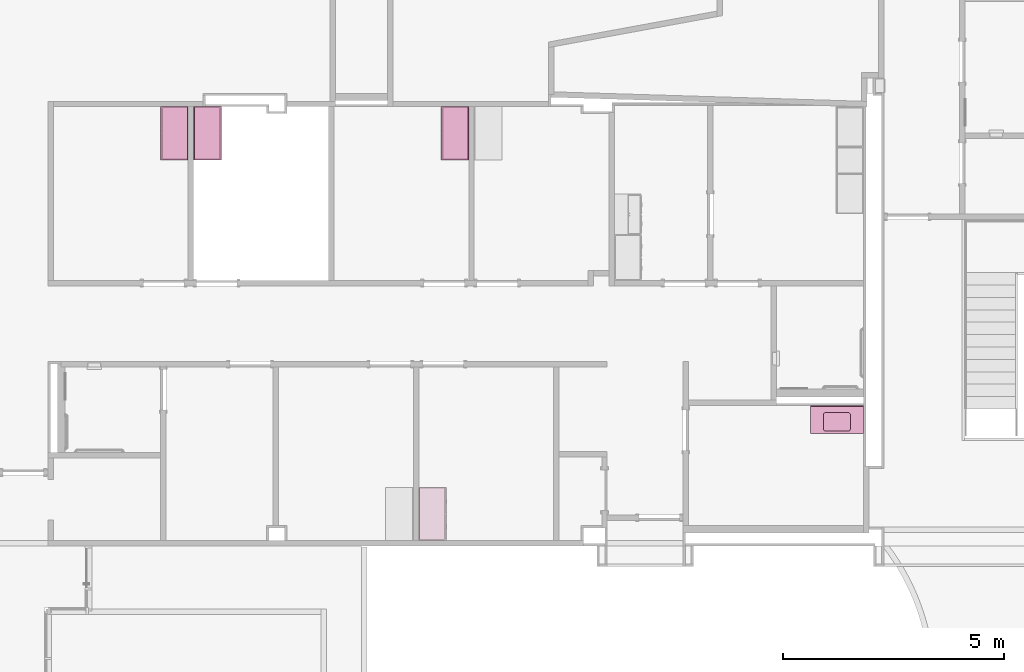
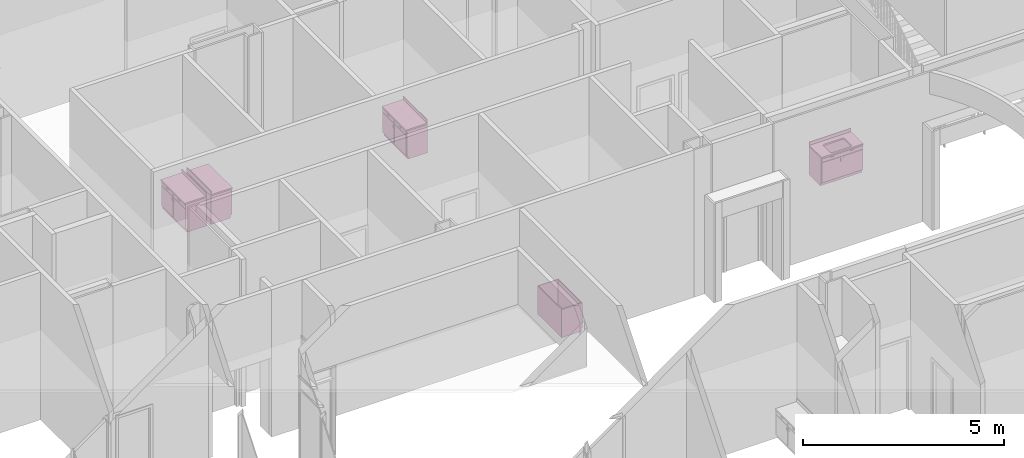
# One storey, part 78 of 82: 9 furnishings, 4 openings.
"""IFC2X3 building model written with IfcOpenShell, lengths in metres."""

from ifc_helpers import new_model, entity, si_unit, converted_unit, frame, frame_2d, origin, place, context, project, spatial, polyline, circle_curve, parameter, trimmed, segment, composite_curve, outline, extrude, face_set, surface_model, source, transform, mapped, type_object, type_shapes, element, save


model = new_model("IFC2X3")

# Units and contexts
model_context = context("Model", 3, precision=1e-09, world=origin())
plan_context = context("Plan", 3, precision=1e-09, world=origin())
ifc_project = project(units=[si_unit("LENGTHUNIT", "METRE"), si_unit("AREAUNIT", "SQUARE_METRE"), si_unit("VOLUMEUNIT", "CUBIC_METRE"), converted_unit("PLANEANGLEUNIT", "DEGREE", entity("IfcRatioMeasure", 0.01745329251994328), si_unit("PLANEANGLEUNIT", "RADIAN"), dimensions=[0, 0, 0, 0, 0, 0, 0]), si_unit("TIMEUNIT", "SECOND")], contexts=[model_context, plan_context])

# Site, building, storey, space
site_placement = place(None, origin())
site = spatial("IfcSite", under=ifc_project, at=site_placement, Name="Default", CompositionType="ELEMENT")
building_placement = place(site_placement, origin())
building = spatial("IfcBuilding", under=site, at=building_placement, CompositionType="ELEMENT")
storey_placement = place(building_placement, origin())
storey = spatial("IfcBuildingStorey", under=building, at=storey_placement, Name="First Floor", CompositionType="ELEMENT", Elevation=-3.531500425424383e-13)
space_1_placement = place(storey_placement, origin())
space_1 = spatial("IfcSpace", under=storey, at=space_1_placement, Name="1D02", CompositionType="ELEMENT", InteriorOrExteriorSpace="INTERNAL")

# Furnishing, opening
furniture_type_1 = type_object("IfcFurnitureType", Name="600mm Depth", AssemblyPlace="NOTDEFINED")
shared_shape_1 = source(origin(), model_context, "Body", "SweptSolid", [
    extrude(outline(polyline([(-0.0605333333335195, -0.2146833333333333), (0.08106666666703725, -0.2146833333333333), (0.08106666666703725, -0.1956333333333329), (-0.02053333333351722, -0.1956333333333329), (-0.02053333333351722, 0.4103166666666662), (-0.0605333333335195, 0.4103166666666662), (-0.0605333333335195, -0.2146833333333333)])), frame((-1.200462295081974, -0.2146833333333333, 0.920533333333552), z_axis=(1.0, 0.0, 0.0), x_axis=(0.0, 0.0, 1.0)), (0.0, 0.0, 1.0), 1.200000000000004),
])
type_shapes(furniture_type_1, [shared_shape_1])
furnishing_1_placement = place(space_1_placement, frame((-20.28953770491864, 37.94999999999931, 0.0)))
furnishing_1 = element("IfcFurnishingElement", 1, at=furnishing_1_placement, inside=space_1, type_object=furniture_type_1, Name="M_Counter Top w Sink Hole:600mm Depth:600mm Depth", ObjectType="600mm Depth", context=model_context, shape_type="MappedRepresentation", body=[
    mapped(shared_shape_1, transform((0.0, 0.0, 0.0), scale=1.0)),
])
opening_1_placement = place(space_1_placement, frame((-20.28953770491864, 37.94999999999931, 0.0)))
element("IfcOpeningElement", 2, at=opening_1_placement, cuts=furnishing_1, Name="M_Counter Top w Sink Hole:600mm Depth:600mm Depth:1", ObjectType="Opening", context=model_context, shape_type="SweptSolid", body=[
    extrude(outline(composite_curve([segment(polyline([(-0.2553999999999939, -0.2083292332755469), (0.2554000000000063, -0.2083292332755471)]), True, "CONTINUOUS"), segment(trimmed(circle_curve(frame_2d((0.2554000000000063, -0.1575292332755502), x_axis=(-1.0, 0.0)), 0.05079999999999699), [parameter(89.99999999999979)], [parameter(180.0000000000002)], True, "PARAMETER"), True, "CONTINUOUS"), segment(polyline([(0.3062000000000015, -0.1575292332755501), (0.3062000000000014, 0.1575292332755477)]), True, "CONTINUOUS"), segment(trimmed(circle_curve(frame_2d((0.255400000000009, 0.1575292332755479), x_axis=(-1.0, 0.0)), 0.0507999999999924), [parameter(179.9999999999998)], [parameter(269.9999999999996)], True, "PARAMETER"), True, "CONTINUOUS"), segment(polyline([(0.2554000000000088, 0.2083292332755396), (-0.2554000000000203, 0.2083292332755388)]), True, "CONTINUOUS"), segment(trimmed(circle_curve(frame_2d((-0.2554000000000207, 0.1575292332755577), x_axis=(-1.0, 0.0)), 0.05079999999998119), [parameter(269.9999999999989)], [parameter(359.9999999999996)], True, "PARAMETER"), True, "CONTINUOUS"), segment(polyline([(-0.3062000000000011, 0.1575292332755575), (-0.306200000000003, -0.1575292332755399)]), True, "CONTINUOUS"), segment(trimmed(circle_curve(frame_2d((-0.2553999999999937, -0.1575292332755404), x_axis=(-1.0, 0.0)), 0.05080000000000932), [parameter(359.9999999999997)], [parameter(90.00000000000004)], True, "PARAMETER"), True, "CONTINUOUS")], self_intersect=False)), frame((-0.6004622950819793, -0.3653589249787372, 0.8600000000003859), z_axis=(0.0, 0.0, 1.0), x_axis=(-1.0, 0.0, 0.0)), (0.0, 0.0, 1.0), 0.04000000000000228),
])

# Space
space_2_placement = place(storey_placement, origin())
space_2 = spatial("IfcSpace", under=storey, at=space_2_placement, Name="1D11", CompositionType="ELEMENT", InteriorOrExteriorSpace="INTERNAL")

# Furnishing, opening
furniture_type_2 = type_object("IfcFurnitureType", Name="600mm Depth", AssemblyPlace="NOTDEFINED")
type_shapes(furniture_type_2, [shared_shape_1])
furnishing_2_placement = place(space_2_placement, frame((-35.42600000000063, 44.70646229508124, 0.0), z_axis=(0.0, 0.0, 1.0), x_axis=(0.0, 1.0, 0.0)))
furnishing_2 = element("IfcFurnishingElement", 3, at=furnishing_2_placement, inside=space_2, type_object=furniture_type_2, Name="M_Counter Top w Sink Hole:600mm Depth:600mm Depth", ObjectType="600mm Depth", context=model_context, shape_type="MappedRepresentation", body=[
    mapped(shared_shape_1, transform((0.0, 0.0, 0.0), scale=1.0)),
])
opening_2_placement = place(space_2_placement, frame((-35.42600000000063, 44.70646229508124, 0.0), z_axis=(0.0, 0.0, 1.0), x_axis=(0.0, 1.0, 0.0)))
element("IfcOpeningElement", 4, at=opening_2_placement, cuts=furnishing_2, Name="M_Counter Top w Sink Hole:600mm Depth:600mm Depth:1", ObjectType="Opening", context=model_context, shape_type="SweptSolid", body=[
    extrude(outline(composite_curve([segment(polyline([(-0.255399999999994, -0.2083292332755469), (0.2554000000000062, -0.2083292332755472)]), True, "CONTINUOUS"), segment(trimmed(circle_curve(frame_2d((0.2554000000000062, -0.1575292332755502), x_axis=(-1.0, 0.0)), 0.05079999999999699), [parameter(89.99999999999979)], [parameter(180.0000000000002)], True, "PARAMETER"), True, "CONTINUOUS"), segment(polyline([(0.3062000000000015, -0.1575292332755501), (0.3062000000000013, 0.1575292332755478)]), True, "CONTINUOUS"), segment(trimmed(circle_curve(frame_2d((0.2554000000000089, 0.1575292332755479), x_axis=(-1.0, 0.0)), 0.0507999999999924), [parameter(179.9999999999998)], [parameter(269.9999999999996)], True, "PARAMETER"), True, "CONTINUOUS"), segment(polyline([(0.2554000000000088, 0.2083292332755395), (-0.2554000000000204, 0.2083292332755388)]), True, "CONTINUOUS"), segment(trimmed(circle_curve(frame_2d((-0.2554000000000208, 0.1575292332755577), x_axis=(-1.0, 0.0)), 0.05079999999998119), [parameter(269.9999999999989)], [parameter(359.9999999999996)], True, "PARAMETER"), True, "CONTINUOUS"), segment(polyline([(-0.3062000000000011, 0.1575292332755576), (-0.306200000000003, -0.1575292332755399)]), True, "CONTINUOUS"), segment(trimmed(circle_curve(frame_2d((-0.2553999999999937, -0.1575292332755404), x_axis=(-1.0, 0.0)), 0.05080000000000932), [parameter(359.9999999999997)], [parameter(90.00000000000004)], True, "PARAMETER"), True, "CONTINUOUS")], self_intersect=False)), frame((-0.3653589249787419, 0.6004622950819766, 0.8600000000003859), z_axis=(0.0, 0.0, 1.0), x_axis=(0.0, 1.0, 0.0)), (0.0, 0.0, 1.0), 0.04000000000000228),
])

# Furnishing
furniture_type_3 = type_object("IfcFurnitureType", Name="1200mm", AssemblyPlace="NOTDEFINED")
shared_shape_2 = source(origin(), model_context, "Body", "SurfaceModel", [
    surface_model("IfcFaceBasedSurfaceModel", [(1.180949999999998, 0.04445000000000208, 0.86000000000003), (1.180949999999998, 0.04445000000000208, 0.09999999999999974), (0.01905000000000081, 0.04445000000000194, 0.09999999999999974), (0.01905000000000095, 0.04445000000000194, 0.86000000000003), (1.2, 0.02540000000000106, 0.8600000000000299), (0.0, 0.02540000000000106, 0.8600000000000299), (1.2, 0.02540000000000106, 0.09999999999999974), (0.0, 0.02540000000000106, 0.0999999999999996), (0.01905000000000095, 0.6063499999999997, 0.86000000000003), (0.01905000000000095, 0.6063499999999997, 0.09999999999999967), (0.01905000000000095, 0.06040000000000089, 0.09999999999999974), (0.0, 0.6254000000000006, 0.8600000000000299), (0.0, 0.6254000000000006, 0.0), (0.0, 0.06040000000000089, 0.0), (0.0, 0.06040000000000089, 0.09999999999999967), (1.180949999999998, 0.6063499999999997, 0.86000000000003), (1.180949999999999, 0.6063499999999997, 0.09999999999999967), (1.2, 0.6254000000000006, 0.8600000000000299), (1.2, 0.6254000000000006, 0.0), (1.180949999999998, 0.06040000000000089, 0.09999999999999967), (1.2, 0.06040000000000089, 0.09999999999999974), (1.2, 0.06040000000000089, 0.0), (0.3603250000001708, 0.0, 0.8155500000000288), (0.3603250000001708, 0.0, 0.8028500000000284), (0.258725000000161, 0.0, 0.8028500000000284), (0.258725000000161, 0.0, 0.8155500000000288), (0.9412750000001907, 0.0, 0.8155500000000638), (0.9412750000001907, 0.0, 0.8028500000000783), (0.8396750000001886, 0.0, 0.8028500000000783), (0.8396750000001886, 0.0, 0.8155500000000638), (0.5650750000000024, 0.0, 0.6822000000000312), (0.5650750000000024, 0.0, 0.5806000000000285), (0.5523750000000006, 0.0, 0.5806000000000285), (0.5523750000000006, 0.0, 0.6822000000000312), (0.6476249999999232, 0.0, 0.6822000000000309), (0.6476249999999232, 0.0, 0.5806000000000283), (0.6349249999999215, 0.0, 0.5806000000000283), (0.6349249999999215, 0.0, 0.6822000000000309), (0.3603250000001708, 0.01270000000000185, 0.8155500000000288), (0.3603250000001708, 0.01270000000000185, 0.8028500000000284), (0.2587250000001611, 0.01270000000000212, 0.8028500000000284), (0.2587250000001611, 0.01270000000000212, 0.8155500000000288), (0.9412750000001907, 0.01269999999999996, 0.8155500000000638), (0.9412750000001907, 0.01269999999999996, 0.8028500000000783), (0.8396750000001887, 0.01270000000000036, 0.8028500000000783), (0.8396750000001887, 0.01270000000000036, 0.8155500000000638), (0.5650750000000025, 0.01270000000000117, 0.6822000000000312), (0.5650750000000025, 0.01270000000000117, 0.5806000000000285), (0.5523750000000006, 0.01270000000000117, 0.5806000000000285), (0.5523750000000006, 0.01270000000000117, 0.6822000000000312), (0.6476249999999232, 0.0127000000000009, 0.6822000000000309), (0.6476249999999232, 0.0127000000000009, 0.5806000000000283), (0.6349249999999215, 0.0127000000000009, 0.5806000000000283), (0.6349249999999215, 0.0127000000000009, 0.6822000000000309), (0.5904749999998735, 0.01270000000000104, 0.8409500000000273), (0.5904749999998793, 0.01270000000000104, 0.7393500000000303), (0.01905000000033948, 0.0127000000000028, 0.7393500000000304), (0.01905000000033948, 0.0127000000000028, 0.8409500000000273), (1.180950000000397, 0.01269999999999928, 0.8409500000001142), (1.180950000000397, 0.01269999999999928, 0.7393500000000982), (0.6095249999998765, 0.01270000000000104, 0.7393500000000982), (0.6095249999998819, 0.01270000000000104, 0.8409500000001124), (0.5904749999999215, 0.01270000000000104, 0.7203000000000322), (0.5904749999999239, 0.01270000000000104, 0.1190499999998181), (0.01905000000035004, 0.0127000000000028, 0.1190499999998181), (0.01905000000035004, 0.0127000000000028, 0.7203000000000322), (1.180950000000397, 0.01269999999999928, 0.7203000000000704), (1.180950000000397, 0.01269999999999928, 0.1190499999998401), (0.6095249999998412, 0.01270000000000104, 0.1190499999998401), (0.6095249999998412, 0.01270000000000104, 0.7203000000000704), (0.5904749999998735, 0.02540000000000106, 0.8409500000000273), (0.5904749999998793, 0.02540000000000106, 0.7393500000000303), (0.01905000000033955, 0.02540000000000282, 0.7393500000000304), (0.01905000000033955, 0.02540000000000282, 0.8409500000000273), (1.180950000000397, 0.02539999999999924, 0.8409500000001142), (1.180950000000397, 0.02539999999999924, 0.7393500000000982), (0.6095249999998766, 0.025400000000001, 0.7393500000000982), (0.6095249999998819, 0.025400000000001, 0.8409500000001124), (0.5904749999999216, 0.02540000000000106, 0.7203000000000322), (0.5904749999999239, 0.02540000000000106, 0.1190499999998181), (0.01905000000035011, 0.02540000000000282, 0.1190499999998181), (0.01905000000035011, 0.02540000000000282, 0.7203000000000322), (1.180950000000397, 0.02539999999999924, 0.7203000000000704), (1.180950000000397, 0.02539999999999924, 0.1190499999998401), (0.6095249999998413, 0.025400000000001, 0.1190499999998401), (0.6095249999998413, 0.025400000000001, 0.7203000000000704), (1.180949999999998, 0.6063499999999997, 0.1190499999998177), (1.180949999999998, 0.04445000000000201, 0.1190499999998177), (0.01905000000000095, 0.04445000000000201, 0.1190499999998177), (0.01905000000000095, 0.6063499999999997, 0.1190499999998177), (1.180949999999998, 0.6063499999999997, 0.09999999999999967), (1.180949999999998, 0.04445000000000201, 0.09999999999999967), (0.01905000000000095, 0.04445000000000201, 0.09999999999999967)], [face_set([[[0, 1, 2, 3]], [[0, 4, 5, 3]], [[4, 6, 7, 5]], [[2, 1, 6, 7]], [[3, 8, 9, 10, 2]], [[5, 11, 8, 3]], [[7, 5, 11, 12, 13, 14]], [[2, 7, 14, 10]], [[8, 15, 16, 9]], [[11, 17, 15, 8]], [[12, 11, 17, 18]], [[1, 19, 16, 15, 0]], [[0, 15, 17, 4]], [[4, 6, 20, 21, 18, 17]], [[6, 1, 19, 20]], [[10, 9, 16, 19]], [[18, 21, 13, 12]], [[13, 14, 10, 19, 20, 21]]]), face_set([[[22, 23, 24, 25]], [[26, 27, 28, 29]], [[30, 31, 32, 33]], [[34, 35, 36, 37]], [[38, 39, 40, 41]], [[42, 43, 44, 45]], [[46, 47, 48, 49]], [[50, 51, 52, 53]], [[25, 41, 38, 22]], [[24, 40, 41, 25]], [[23, 24, 40, 39]], [[22, 23, 39, 38]], [[29, 45, 42, 26]], [[28, 44, 45, 29]], [[27, 28, 44, 43]], [[26, 27, 43, 42]], [[33, 49, 46, 30]], [[32, 48, 49, 33]], [[31, 32, 48, 47]], [[30, 31, 47, 46]], [[37, 53, 50, 34]], [[36, 52, 53, 37]], [[35, 36, 52, 51]], [[34, 35, 51, 50]]]), face_set([[[54, 55, 56, 57]], [[58, 59, 60, 61]], [[62, 63, 64, 65]], [[66, 67, 68, 69]], [[70, 71, 72, 73]], [[74, 75, 76, 77]], [[78, 79, 80, 81]], [[82, 83, 84, 85]], [[57, 73, 70, 54]], [[56, 57, 73, 72]], [[55, 56, 72, 71]], [[54, 55, 71, 70]], [[61, 77, 74, 58]], [[60, 76, 77, 61]], [[59, 60, 76, 75]], [[58, 59, 75, 74]], [[65, 81, 78, 62]], [[64, 65, 81, 80]], [[63, 64, 80, 79]], [[62, 63, 79, 78]], [[69, 85, 82, 66]], [[68, 84, 85, 69]], [[67, 68, 84, 83]], [[66, 67, 83, 82]]]), face_set([[[86, 87, 88, 89]], [[90, 91, 92, 9]], [[89, 86, 90, 9]], [[88, 89, 9, 92]], [[87, 91, 92, 88]], [[86, 87, 91, 90]]])]),
])
type_shapes(furniture_type_3, [shared_shape_2])
furnishing_3_placement = place(space_1_placement, frame((-21.49000000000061, 37.32484908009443, 0.0)))
element("IfcFurnishingElement", 5, at=furnishing_3_placement, inside=space_1, type_object=furniture_type_3, Name="M_Base Cabinet-Double Door & 2 Drawer:1200mm:1200mm", ObjectType="1200mm", context=model_context, shape_type="MappedRepresentation", body=[
    mapped(shared_shape_2, transform((0.0, 0.0, 0.0), scale=1.0)),
])

# Space
space_3_placement = place(storey_placement, origin())
space_3 = spatial("IfcSpace", under=storey, at=space_3_placement, Name="1D08", CompositionType="ELEMENT", InteriorOrExteriorSpace="INTERNAL")

# Furnishings
furnishing_4_placement = place(space_3_placement, frame((-29.71484908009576, 34.90354814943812, 0.0), z_axis=(0.0, 0.0, 1.0), x_axis=(0.0, 1.0, 0.0)))
element("IfcFurnishingElement", 6, at=furnishing_4_placement, inside=space_3, type_object=furniture_type_3, Name="M_Base Cabinet-Double Door & 2 Drawer:1200mm:1200mm", ObjectType="1200mm", context=model_context, shape_type="MappedRepresentation", body=[
    mapped(shared_shape_2, transform((0.0, 0.0, 0.0), scale=1.0)),
])
furnishing_5_placement = place(space_2_placement, frame((-34.80084908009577, 43.50599999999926, 0.0), z_axis=(0.0, 0.0, 1.0), x_axis=(0.0, 1.0, 0.0)))
element("IfcFurnishingElement", 7, at=furnishing_5_placement, inside=space_2, type_object=furniture_type_3, Name="M_Base Cabinet-Double Door & 2 Drawer:1200mm:1200mm", ObjectType="1200mm", context=model_context, shape_type="MappedRepresentation", body=[
    mapped(shared_shape_2, transform((0.0, 0.0, 0.0), scale=1.0)),
])

# Space
space_4_placement = place(storey_placement, origin())
space_4 = spatial("IfcSpace", under=storey, at=space_4_placement, Name="1D09", CompositionType="ELEMENT", InteriorOrExteriorSpace="INTERNAL")

# Furnishing, opening
furniture_type_4 = type_object("IfcFurnitureType", Name="600mm Depth", AssemblyPlace="NOTDEFINED")
shared_shape_3 = source(origin(), model_context, "Body", "SweptSolid", [
    extrude(outline(polyline([(-0.2146833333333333, -0.06053333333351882), (0.4103166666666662, -0.06053333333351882), (0.4103166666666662, -0.02053333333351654), (-0.1956333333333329, -0.02053333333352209), (-0.1956333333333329, 0.08106666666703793), (-0.2146833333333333, 0.08106666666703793), (-0.2146833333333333, -0.06053333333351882)])), frame((-1.200462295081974, 0.2146833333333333, 0.9205333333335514), z_axis=(1.0, 0.0, 0.0), x_axis=(0.0, 1.0, 0.0)), (0.0, 0.0, 1.0), 1.200000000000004),
])
type_shapes(furniture_type_4, [shared_shape_3])
furnishing_6_placement = place(space_4_placement, frame((-29.21000000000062, 44.70646229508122, 0.0), z_axis=(0.0, 0.0, 1.0), x_axis=(0.0, 1.0, 0.0)))
furnishing_6 = element("IfcFurnishingElement", 8, at=furnishing_6_placement, inside=space_4, type_object=furniture_type_4, Name="M_Counter Top w Sink Hole:600mm Depth:600mm Depth", ObjectType="600mm Depth", context=model_context, shape_type="MappedRepresentation", body=[
    mapped(shared_shape_3, transform((0.0, 0.0, 0.0), scale=1.0)),
])
opening_3_placement = place(space_4_placement, frame((-29.21000000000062, 44.70646229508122, 0.0), z_axis=(0.0, 0.0, 1.0), x_axis=(0.0, 1.0, 0.0)))
element("IfcOpeningElement", 9, at=opening_3_placement, cuts=furnishing_6, Name="M_Counter Top w Sink Hole:600mm Depth:600mm Depth:1", ObjectType="Opening", context=model_context, shape_type="SweptSolid", body=[
    extrude(outline(composite_curve([segment(trimmed(circle_curve(frame_2d((-0.2554000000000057, 0.157529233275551), x_axis=(1.0, 0.0)), 0.05079999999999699), [parameter(90.00000000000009)], [parameter(180.0000000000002)], True, "PARAMETER"), True, "CONTINUOUS"), segment(polyline([(-0.306200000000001, 0.157529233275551), (-0.3062000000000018, -0.1575292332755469)]), True, "CONTINUOUS"), segment(trimmed(circle_curve(frame_2d((-0.2554000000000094, -0.1575292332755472), x_axis=(1.0, 0.0)), 0.0507999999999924), [parameter(180.0000000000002)], [parameter(269.9999999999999)], True, "PARAMETER"), True, "CONTINUOUS"), segment(polyline([(-0.2554000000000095, -0.2083292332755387), (0.2554000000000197, -0.2083292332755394)]), True, "CONTINUOUS"), segment(trimmed(circle_curve(frame_2d((0.2554000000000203, -0.1575292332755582), x_axis=(1.0, 0.0)), 0.05079999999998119), [parameter(269.9999999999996)], [parameter(4.071109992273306e-13)], True, "PARAMETER"), True, "CONTINUOUS"), segment(polyline([(0.3062000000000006, -0.1575292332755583), (0.3062000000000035, 0.1575292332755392)]), True, "CONTINUOUS"), segment(trimmed(circle_curve(frame_2d((0.2553999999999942, 0.1575292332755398), x_axis=(1.0, 0.0)), 0.05080000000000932), [parameter(359.9999999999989)], [parameter(89.99999999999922)], True, "PARAMETER"), True, "CONTINUOUS"), segment(polyline([(0.2553999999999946, 0.2083292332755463), (-0.2554000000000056, 0.208329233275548)]), True, "CONTINUOUS")], self_intersect=False)), frame((0.365358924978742, 0.6004622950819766, 0.900000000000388), z_axis=(0.0, 0.0, -1.0), x_axis=(0.0, -1.0, 0.0)), (0.0, 0.0, 1.0), 0.04000000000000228),
])

# Space
space_5_placement = place(storey_placement, origin())
space_5 = spatial("IfcSpace", under=storey, at=space_5_placement, Name="1D13", CompositionType="ELEMENT", InteriorOrExteriorSpace="INTERNAL")

# Furnishing, opening
furniture_type_5 = type_object("IfcFurnitureType", Name="600mm Depth", AssemblyPlace="NOTDEFINED")
type_shapes(furniture_type_5, [shared_shape_3])
furnishing_7_placement = place(space_5_placement, frame((-35.55000000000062, 44.70646229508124, 0.0), z_axis=(0.0, 0.0, 1.0), x_axis=(0.0, 1.0, 0.0)))
furnishing_7 = element("IfcFurnishingElement", 10, at=furnishing_7_placement, inside=space_5, type_object=furniture_type_5, Name="M_Counter Top w Sink Hole:600mm Depth:600mm Depth", ObjectType="600mm Depth", context=model_context, shape_type="MappedRepresentation", body=[
    mapped(shared_shape_3, transform((0.0, 0.0, 0.0), scale=1.0)),
])
opening_4_placement = place(space_5_placement, frame((-35.55000000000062, 44.70646229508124, 0.0), z_axis=(0.0, 0.0, 1.0), x_axis=(0.0, 1.0, 0.0)))
element("IfcOpeningElement", 11, at=opening_4_placement, cuts=furnishing_7, Name="M_Counter Top w Sink Hole:600mm Depth:600mm Depth:1", ObjectType="Opening", context=model_context, shape_type="SweptSolid", body=[
    extrude(outline(composite_curve([segment(trimmed(circle_curve(frame_2d((-0.2554000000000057, 0.157529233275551), x_axis=(1.0, 0.0)), 0.05079999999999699), [parameter(90.00000000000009)], [parameter(180.0000000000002)], True, "PARAMETER"), True, "CONTINUOUS"), segment(polyline([(-0.306200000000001, 0.157529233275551), (-0.3062000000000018, -0.1575292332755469)]), True, "CONTINUOUS"), segment(trimmed(circle_curve(frame_2d((-0.2554000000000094, -0.1575292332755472), x_axis=(1.0, 0.0)), 0.0507999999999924), [parameter(180.0000000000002)], [parameter(269.9999999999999)], True, "PARAMETER"), True, "CONTINUOUS"), segment(polyline([(-0.2554000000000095, -0.2083292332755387), (0.2554000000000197, -0.2083292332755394)]), True, "CONTINUOUS"), segment(trimmed(circle_curve(frame_2d((0.2554000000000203, -0.1575292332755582), x_axis=(1.0, 0.0)), 0.05079999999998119), [parameter(269.9999999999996)], [parameter(4.071109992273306e-13)], True, "PARAMETER"), True, "CONTINUOUS"), segment(polyline([(0.3062000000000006, -0.1575292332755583), (0.3062000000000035, 0.1575292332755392)]), True, "CONTINUOUS"), segment(trimmed(circle_curve(frame_2d((0.2553999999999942, 0.1575292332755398), x_axis=(1.0, 0.0)), 0.05080000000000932), [parameter(359.9999999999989)], [parameter(89.99999999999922)], True, "PARAMETER"), True, "CONTINUOUS"), segment(polyline([(0.2553999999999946, 0.2083292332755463), (-0.2554000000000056, 0.208329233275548)]), True, "CONTINUOUS")], self_intersect=False)), frame((0.365358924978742, 0.6004622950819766, 0.900000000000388), z_axis=(0.0, 0.0, -1.0), x_axis=(0.0, -1.0, 0.0)), (0.0, 0.0, 1.0), 0.04000000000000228),
])

# Furnishings
furniture_type_6 = type_object("IfcFurnitureType", Name="1200mm", AssemblyPlace="NOTDEFINED")
shared_shape_4 = source(origin(), model_context, "Body", "SurfaceModel", [
    surface_model("IfcFaceBasedSurfaceModel", [(1.180949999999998, 0.5809499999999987, 0.8600000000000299), (0.01905000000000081, 0.5809499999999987, 0.8600000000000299), (0.01905000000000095, 0.5809499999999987, 0.09999999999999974), (1.180949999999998, 0.5809499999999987, 0.09999999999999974), (0.0, 0.5999999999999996, 0.8600000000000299), (1.2, 0.5999999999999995, 0.8600000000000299), (0.0, 0.5999999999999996, 0.09999999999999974), (1.2, 0.5999999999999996, 0.0999999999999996), (0.01905000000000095, 0.5649999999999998, 0.09999999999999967), (0.01905000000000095, 0.019050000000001, 0.09999999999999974), (0.01905000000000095, 0.019050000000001, 0.8600000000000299), (0.0, 0.0, 0.8600000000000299), (0.0, 0.0, 0.0), (0.0, 0.5649999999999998, 0.0), (0.0, 0.5649999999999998, 0.09999999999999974), (1.180949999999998, 0.01905000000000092, 0.09999999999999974), (1.180949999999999, 0.01905000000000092, 0.8600000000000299), (1.2, 0.0, 0.8600000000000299), (1.2, 0.0, 0.0), (1.180949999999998, 0.5649999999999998, 0.09999999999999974), (1.2, 0.5649999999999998, 0.0), (1.2, 0.5649999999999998, 0.0999999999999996), (0.3603250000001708, 0.6253999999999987, 0.8155500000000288), (0.258725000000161, 0.6253999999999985, 0.8155500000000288), (0.2587250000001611, 0.6253999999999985, 0.8028500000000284), (0.3603250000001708, 0.6253999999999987, 0.8028500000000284), (0.9412750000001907, 0.6254000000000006, 0.8155500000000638), (0.8396750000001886, 0.6254000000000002, 0.8155500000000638), (0.8396750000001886, 0.6254000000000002, 0.8028500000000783), (0.9412750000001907, 0.6254000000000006, 0.8028500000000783), (0.5650750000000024, 0.6253999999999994, 0.6822000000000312), (0.5523750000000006, 0.6253999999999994, 0.6822000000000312), (0.5523750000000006, 0.6253999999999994, 0.5806000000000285), (0.5650750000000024, 0.6253999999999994, 0.5806000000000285), (0.6476249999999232, 0.6253999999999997, 0.6822000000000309), (0.6349249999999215, 0.6253999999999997, 0.6822000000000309), (0.6349249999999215, 0.6253999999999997, 0.5806000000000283), (0.6476249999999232, 0.6253999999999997, 0.5806000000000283), (0.3603250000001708, 0.6126999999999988, 0.8155500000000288), (0.2587250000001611, 0.6126999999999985, 0.8155500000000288), (0.2587250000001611, 0.6126999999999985, 0.8028500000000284), (0.3603250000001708, 0.6126999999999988, 0.8028500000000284), (0.9412750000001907, 0.6127000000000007, 0.8155500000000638), (0.8396750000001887, 0.6127000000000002, 0.8155500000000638), (0.8396750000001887, 0.6127000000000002, 0.8028500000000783), (0.9412750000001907, 0.6127000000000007, 0.8028500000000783), (0.5650750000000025, 0.6126999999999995, 0.6822000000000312), (0.5523750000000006, 0.6126999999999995, 0.6822000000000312), (0.5523750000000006, 0.6126999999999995, 0.5806000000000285), (0.5650750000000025, 0.6126999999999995, 0.5806000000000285), (0.6476249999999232, 0.6126999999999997, 0.6822000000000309), (0.6349249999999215, 0.6126999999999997, 0.6822000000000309), (0.6349249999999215, 0.6126999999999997, 0.5806000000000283), (0.6476249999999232, 0.6126999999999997, 0.5806000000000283), (0.5904749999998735, 0.6126999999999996, 0.8409500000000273), (0.01905000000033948, 0.6126999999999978, 0.8409500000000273), (0.01905000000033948, 0.6126999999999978, 0.7393500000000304), (0.5904749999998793, 0.6126999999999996, 0.7393500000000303), (1.180950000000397, 0.6127000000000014, 0.8409500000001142), (0.6095249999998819, 0.6126999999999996, 0.8409500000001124), (0.6095249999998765, 0.6126999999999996, 0.7393500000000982), (1.180950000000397, 0.6127000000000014, 0.7393500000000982), (0.5904749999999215, 0.6126999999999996, 0.7203000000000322), (0.01905000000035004, 0.6126999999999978, 0.7203000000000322), (0.01905000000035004, 0.6126999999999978, 0.1190499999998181), (0.5904749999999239, 0.6126999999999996, 0.1190499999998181), (1.180950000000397, 0.6127000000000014, 0.7203000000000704), (0.6095249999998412, 0.6126999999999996, 0.7203000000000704), (0.6095249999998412, 0.6126999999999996, 0.1190499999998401), (1.180950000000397, 0.6127000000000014, 0.1190499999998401), (0.5904749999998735, 0.5999999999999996, 0.8409500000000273), (0.01905000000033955, 0.5999999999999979, 0.8409500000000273), (0.01905000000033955, 0.5999999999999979, 0.7393500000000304), (0.5904749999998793, 0.5999999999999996, 0.7393500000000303), (1.180950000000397, 0.6000000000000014, 0.8409500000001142), (0.6095249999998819, 0.5999999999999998, 0.8409500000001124), (0.6095249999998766, 0.5999999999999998, 0.7393500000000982), (1.180950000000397, 0.6000000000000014, 0.7393500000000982), (0.5904749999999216, 0.5999999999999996, 0.7203000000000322), (0.01905000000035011, 0.5999999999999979, 0.7203000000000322), (0.01905000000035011, 0.5999999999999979, 0.1190499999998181), (0.5904749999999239, 0.5999999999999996, 0.1190499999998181), (1.180950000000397, 0.6000000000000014, 0.7203000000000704), (0.6095249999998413, 0.5999999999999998, 0.7203000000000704), (0.6095249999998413, 0.5999999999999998, 0.1190499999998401), (1.180950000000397, 0.6000000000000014, 0.1190499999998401), (1.180949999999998, 0.019050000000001, 0.1190499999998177), (0.01905000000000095, 0.019050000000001, 0.1190499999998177), (0.01905000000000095, 0.5809499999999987, 0.1190499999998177), (1.180949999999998, 0.5809499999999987, 0.1190499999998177), (1.180949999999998, 0.01905000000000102, 0.09999999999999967), (0.01905000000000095, 0.019050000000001, 0.09999999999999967), (0.01905000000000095, 0.5809499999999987, 0.09999999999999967), (1.180949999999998, 0.5809499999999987, 0.09999999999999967)], [face_set([[[0, 1, 2, 3]], [[0, 1, 4, 5]], [[5, 4, 6, 7]], [[2, 6, 7, 3]], [[1, 2, 8, 9, 10]], [[4, 1, 10, 11]], [[6, 4, 11, 12, 13, 14]], [[2, 8, 14, 6]], [[10, 9, 15, 16]], [[11, 10, 16, 17]], [[12, 18, 17, 11]], [[3, 0, 16, 15, 19]], [[0, 5, 17, 16]], [[5, 17, 18, 20, 21, 7]], [[7, 21, 19, 3]], [[8, 19, 15, 9]], [[18, 12, 13, 20]], [[13, 20, 21, 19, 8, 14]]]), face_set([[[22, 23, 24, 25]], [[26, 27, 28, 29]], [[30, 31, 32, 33]], [[34, 35, 36, 37]], [[38, 39, 40, 41]], [[42, 43, 44, 45]], [[46, 47, 48, 49]], [[50, 51, 52, 53]], [[23, 22, 38, 39]], [[24, 23, 39, 40]], [[25, 41, 40, 24]], [[22, 38, 41, 25]], [[27, 26, 42, 43]], [[28, 27, 43, 44]], [[29, 45, 44, 28]], [[26, 42, 45, 29]], [[31, 30, 46, 47]], [[32, 31, 47, 48]], [[33, 49, 48, 32]], [[30, 46, 49, 33]], [[35, 34, 50, 51]], [[36, 35, 51, 52]], [[37, 53, 52, 36]], [[34, 50, 53, 37]]]), face_set([[[54, 55, 56, 57]], [[58, 59, 60, 61]], [[62, 63, 64, 65]], [[66, 67, 68, 69]], [[70, 71, 72, 73]], [[74, 75, 76, 77]], [[78, 79, 80, 81]], [[82, 83, 84, 85]], [[55, 54, 70, 71]], [[56, 72, 71, 55]], [[57, 73, 72, 56]], [[54, 70, 73, 57]], [[59, 58, 74, 75]], [[60, 59, 75, 76]], [[61, 77, 76, 60]], [[58, 74, 77, 61]], [[63, 62, 78, 79]], [[64, 80, 79, 63]], [[65, 81, 80, 64]], [[62, 78, 81, 65]], [[67, 66, 82, 83]], [[68, 67, 83, 84]], [[69, 85, 84, 68]], [[66, 82, 85, 69]]]), face_set([[[86, 87, 88, 89]], [[90, 91, 92, 93]], [[87, 91, 90, 86]], [[88, 92, 91, 87]], [[89, 88, 92, 93]], [[86, 90, 93, 89]]])]),
])
type_shapes(furniture_type_6, [shared_shape_4])
furnishing_8_placement = place(space_5_placement, frame((-35.54975091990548, 43.50599999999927, 0.0), z_axis=(0.0, 0.0, 1.0), x_axis=(0.0, 1.0, 0.0)))
element("IfcFurnishingElement", 12, at=furnishing_8_placement, inside=space_5, type_object=furniture_type_6, Name="M_Base Cabinet-Double Door & 2 Drawer:1200mm:1200mm", ObjectType="1200mm", context=model_context, shape_type="MappedRepresentation", body=[
    mapped(shared_shape_4, transform((0.0, 0.0, 0.0), scale=1.0)),
])
furnishing_9_placement = place(space_4_placement, frame((-29.20975091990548, 43.50599999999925, 0.0), z_axis=(0.0, 0.0, 1.0), x_axis=(0.0, 1.0, 0.0)))
element("IfcFurnishingElement", 13, at=furnishing_9_placement, inside=space_4, type_object=furniture_type_6, Name="M_Base Cabinet-Double Door & 2 Drawer:1200mm:1200mm", ObjectType="1200mm", context=model_context, shape_type="MappedRepresentation", body=[
    mapped(shared_shape_4, transform((0.0, 0.0, 0.0), scale=1.0)),
])

save(model, "model.ifc")
